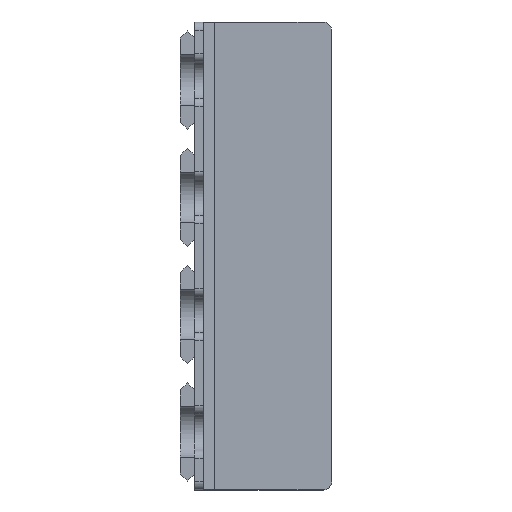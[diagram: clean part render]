
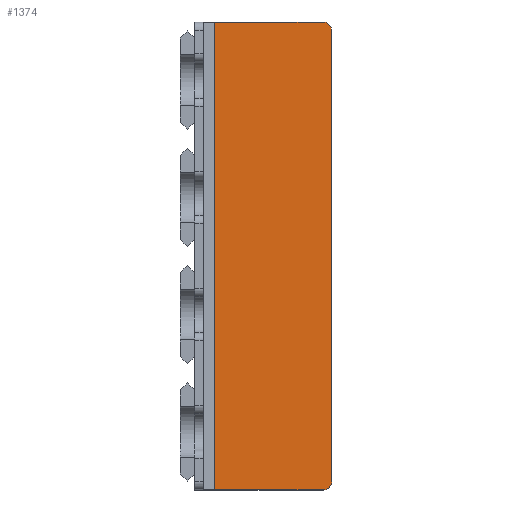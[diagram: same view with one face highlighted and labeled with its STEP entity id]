
A CAD part, top view. The second image highlights one B-rep face of the part: STEP entity #1374.
In plain terms, the highlighted planar face has unit normal (0, 0, 1).
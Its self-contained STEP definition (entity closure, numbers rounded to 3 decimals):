
#39=CIRCLE('',#1466,3.);
#40=CIRCLE('',#1467,3.);
#80=FACE_OUTER_BOUND('',#157,.T.);
#157=EDGE_LOOP('',(#910,#911,#912,#913,#914,#915));
#238=LINE('',#1988,#403);
#241=LINE('',#1994,#406);
#242=LINE('',#1998,#407);
#243=LINE('',#2001,#408);
#403=VECTOR('',#1586,10.);
#406=VECTOR('',#1591,10.);
#407=VECTOR('',#1594,10.);
#408=VECTOR('',#1597,10.);
#568=VERTEX_POINT('',#1985);
#569=VERTEX_POINT('',#1987);
#571=VERTEX_POINT('',#1993);
#572=VERTEX_POINT('',#1995);
#573=VERTEX_POINT('',#1997);
#574=VERTEX_POINT('',#1999);
#702=EDGE_CURVE('',#568,#569,#238,.T.);
#705=EDGE_CURVE('',#571,#568,#241,.T.);
#706=EDGE_CURVE('',#572,#571,#39,.T.);
#707=EDGE_CURVE('',#573,#572,#242,.T.);
#708=EDGE_CURVE('',#574,#573,#40,.T.);
#709=EDGE_CURVE('',#574,#569,#243,.T.);
#910=ORIENTED_EDGE('',*,*,#702,.F.);
#911=ORIENTED_EDGE('',*,*,#705,.F.);
#912=ORIENTED_EDGE('',*,*,#706,.F.);
#913=ORIENTED_EDGE('',*,*,#707,.F.);
#914=ORIENTED_EDGE('',*,*,#708,.F.);
#915=ORIENTED_EDGE('',*,*,#709,.T.);
#1317=PLANE('',#1465);
#1374=ADVANCED_FACE('',(#80),#1317,.F.);
#1465=AXIS2_PLACEMENT_3D('',#1992,#1589,#1590);
#1466=AXIS2_PLACEMENT_3D('',#1996,#1592,#1593);
#1467=AXIS2_PLACEMENT_3D('',#2000,#1595,#1596);
#1586=DIRECTION('',(0.,1.,0.));
#1589=DIRECTION('center_axis',(0.,0.,-1.));
#1590=DIRECTION('ref_axis',(1.,0.,0.));
#1591=DIRECTION('',(-1.,0.,0.));
#1592=DIRECTION('center_axis',(0.,0.,-1.));
#1593=DIRECTION('ref_axis',(0.707,-0.707,0.));
#1594=DIRECTION('',(0.,-1.,0.));
#1595=DIRECTION('center_axis',(0.,0.,-1.));
#1596=DIRECTION('ref_axis',(0.707,0.707,0.));
#1597=DIRECTION('',(-1.,0.,0.));
#1985=CARTESIAN_POINT('',(103.15,-20.8,-108.15));
#1987=CARTESIAN_POINT('',(103.15,146.8,-108.15));
#1988=CARTESIAN_POINT('',(103.15,31.5,-108.15));
#1992=CARTESIAN_POINT('Origin',(122.15,63.,-108.15));
#1993=CARTESIAN_POINT('',(142.15,-20.8,-108.15));
#1994=CARTESIAN_POINT('',(122.15,-20.8,-108.15));
#1995=CARTESIAN_POINT('',(145.15,-17.8,-108.15));
#1996=CARTESIAN_POINT('Origin',(142.15,-17.8,-108.15));
#1997=CARTESIAN_POINT('',(145.15,143.8,-108.15));
#1998=CARTESIAN_POINT('',(145.15,63.,-108.15));
#1999=CARTESIAN_POINT('',(142.15,146.8,-108.15));
#2000=CARTESIAN_POINT('Origin',(142.15,143.8,-108.15));
#2001=CARTESIAN_POINT('',(122.15,146.8,-108.15));
